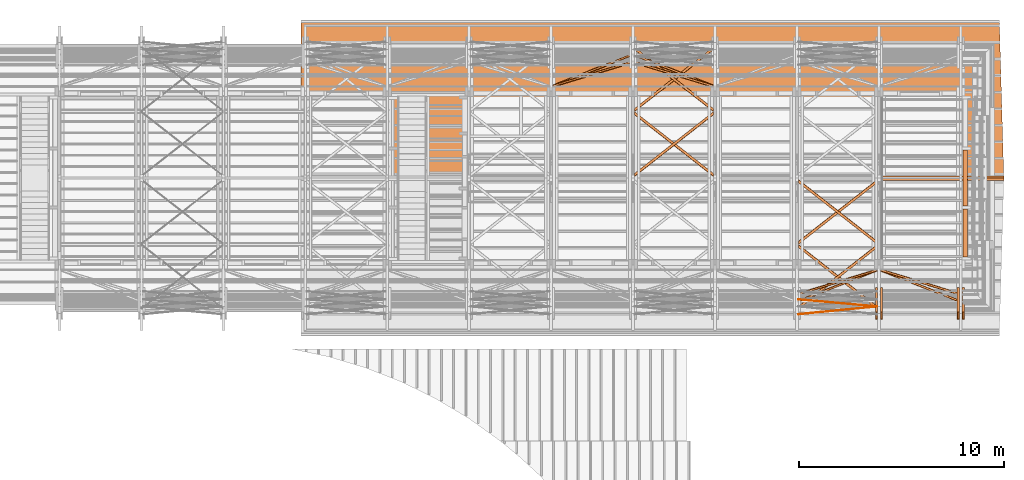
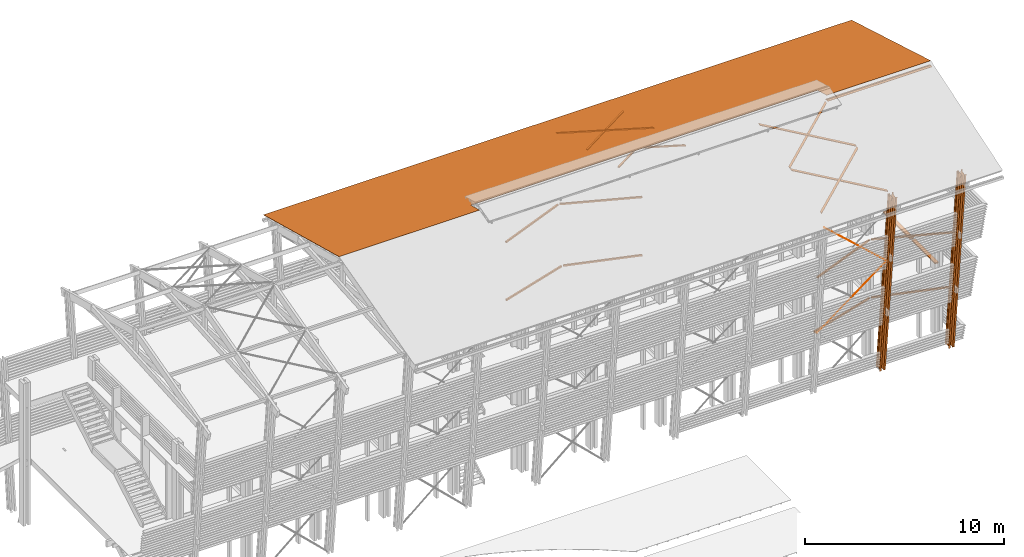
# One storey, part 45 of 48: 27 proxies, 1 element without a shape of its own.
"""IFC2X3 building model written with IfcOpenShell, lengths in metres."""

import ifcopenshell
import ifcopenshell.guid

model = None  # the IFC model being written
_history = None  # IfcOwnerHistory: only IFC2X3 demands one
_inside = {}  # id of a spatial element -> (the spatial element, [elements in it])
_under = {}  # id of a project, library or spatial element -> (it, [spatial elements below it])
_declared = {}  # id of a project -> (the project, [libraries it declares])
_typed = {}  # id of a type object -> (the type object, [elements of that type])
_made_of = {}  # id of a material, layer set ... -> (it, [elements and type objects made of it])


def new_model(schema):
    """Start an empty IFC model of exactly this schema.

    Asked for "IFC4X3", IfcOpenShell would pick the latest addendum, in which some entities
    have other attributes; the version numbers below select the first issue.
    IFC2X3 requires an IfcOwnerHistory on every rooted entity: one is made here for all.
    """
    global model, _history
    if schema == "IFC4X3":
        model = ifcopenshell.file(schema_version=(4, 3, 0, 0))
    else:
        model = ifcopenshell.file(schema=schema)
    _inside.clear()
    _under.clear()
    _declared.clear()
    _typed.clear()
    _made_of.clear()
    _history = None
    if model.schema == "IFC2X3":
        org = make("IfcOrganization", Name="unknown")
        user = make(
            "IfcPersonAndOrganization",
            ThePerson=make("IfcPerson", FamilyName="unknown"),
            TheOrganization=org,
        )
        app = make(
            "IfcApplication",
            ApplicationDeveloper=org,
            Version="unknown",
            ApplicationFullName="unknown",
            ApplicationIdentifier="unknown",
        )
        _history = make(
            "IfcOwnerHistory",
            OwningUser=user,
            OwningApplication=app,
            ChangeAction="ADDED",
            CreationDate=0,
        )
    return model


def make(cls, **values):
    """One entity of the class cls with the attributes given. An attribute that is None is left unset."""
    return model.create_entity(
        cls, **{name: value for name, value in values.items() if value is not None}
    )


def rooted(cls, **values):
    """An entity with a GlobalId (a new one), such as an element, a storey or a relation."""
    return make(cls, GlobalId=ifcopenshell.guid.new(), OwnerHistory=_history, **values)


def si_unit(unit_type, name, prefix=None):
    """IfcSIUnit, for example si_unit("LENGTHUNIT", "METRE", prefix="MILLI")."""
    return make("IfcSIUnit", UnitType=unit_type, Prefix=prefix, Name=name)


def assignment(units):
    """IfcUnitAssignment: the units of a project."""
    return None if units is None else make("IfcUnitAssignment", Units=units)


def point(xyz):
    """IfcCartesianPoint."""
    return None if xyz is None else make("IfcCartesianPoint", Coordinates=xyz)


def direction(xyz):
    """IfcDirection."""
    return None if xyz is None else make("IfcDirection", DirectionRatios=xyz)


def frame(location, z_axis=None, x_axis=None):
    """IfcAxis2Placement3D, a coordinate frame: its origin and axes. An axis left out is left unset."""
    return make(
        "IfcAxis2Placement3D",
        Location=point(location),
        Axis=direction(z_axis),
        RefDirection=direction(x_axis),
    )


def origin_with_axes():
    """The frame at (0, 0, 0) with the z axis (0, 0, 1) and the x axis (1, 0, 0) written out."""
    return frame((0.0, 0.0, 0.0), z_axis=(0.0, 0.0, 1.0), x_axis=(1.0, 0.0, 0.0))


def place(relative_to, where):
    """IfcLocalPlacement: puts the frame where relative to a parent placement (None: the world)."""
    return make(
        "IfcLocalPlacement", PlacementRelTo=relative_to, RelativePlacement=where
    )


def context(
    kind, dimensions, precision=None, world=None, true_north=None, identifier=None
):
    """IfcGeometricRepresentationContext, for example the 3D "Model" context."""
    return make(
        "IfcGeometricRepresentationContext",
        ContextIdentifier=identifier,
        ContextType=kind,
        CoordinateSpaceDimension=dimensions,
        Precision=precision,
        WorldCoordinateSystem=world,
        TrueNorth=true_north,
    )


def subcontext(parent, identifier, kind, view, scale=None):
    """IfcGeometricRepresentationSubContext, for example "Body" below "Model"."""
    return make(
        "IfcGeometricRepresentationSubContext",
        ContextIdentifier=identifier,
        ContextType=kind,
        ParentContext=parent,
        TargetScale=scale,
        TargetView=view,
    )


def project(units=None, contexts=None):
    """IfcProject with its units and contexts."""
    return rooted(
        "IfcProject",
        Name="project",
        RepresentationContexts=contexts,
        UnitsInContext=assignment(units),
    )


def spatial(cls, under=None, at=None, **own):
    """A site, building, storey or space (cls), placed at a placement, below another one or the project."""
    s = rooted(cls, ObjectPlacement=at, **own)
    if under is not None:
        _under.setdefault(under.id(), (under, []))[1].append(s)
    return s


def faces_of(points, faces, orient=None, outer=None):
    """IfcFace entities. A face is a list of loops; a loop is a list of indices into points, from 0.

    orient and outer hold one flag for each loop. By default every Orientation is true, the
    first loop of a face is its IfcFaceOuterBound and the others are IfcFaceBound.
    """
    made = []
    for i, loops in enumerate(faces):
        bounds = []
        for j, loop in enumerate(loops):
            is_outer = j == 0 if outer is None else outer[i][j]
            bounds.append(
                make(
                    "IfcFaceOuterBound" if is_outer else "IfcFaceBound",
                    Bound=make("IfcPolyLoop", Polygon=[points[k] for k in loop]),
                    Orientation=True if orient is None else orient[i][j],
                )
            )
        made.append(make("IfcFace", Bounds=bounds))
    return made


def faceted_brep(points, faces, orient=None, outer=None, voids=None):
    """IfcFacetedBrep: a solid bounded by flat faces; with voids (closed shells), ...WithVoids."""
    shared = [point(p) for p in points]
    hull = make("IfcClosedShell", CfsFaces=faces_of(shared, faces, orient, outer))
    if voids is None:
        return make("IfcFacetedBrep", Outer=hull)
    return make(
        "IfcFacetedBrepWithVoids",
        Outer=hull,
        Voids=[
            make(cls, CfsFaces=faces_of(shared, fs, o, b)) for cls, fs, o, b in voids
        ],
    )


def shape(context_of_items, identifier, shape_type, items):
    """IfcShapeRepresentation: the items that make up one representation, for example the "Body"."""
    return make(
        "IfcShapeRepresentation",
        ContextOfItems=context_of_items,
        RepresentationIdentifier=identifier,
        RepresentationType=shape_type,
        Items=items,
    )


def material(Name=None, Category=None):
    """IfcMaterial."""
    return make("IfcMaterial", Name=Name, Category=Category)


def made_of(thing, what):
    """Note that an element or type object is made of a material, layer set ...; save() writes the relation."""
    if what is not None:
        _made_of.setdefault(what.id(), (what, []))[1].append(thing)
    return thing


def element(
    cls,
    number,
    at=None,
    inside=None,
    cuts=None,
    type_object=None,
    material=None,
    context=None,
    identifier="Body",
    shape_type=None,
    held_by="IfcProductDefinitionShape",
    body=None,
    shapes=None,
    **own,
):
    """One element of the class cls, such as IfcWall. Its Tag is "e" and its number.

    at: its placement. inside: the storey or other place that contains it. cuts: it is an
    opening in that element (IfcRelVoidsElement). A single representation is given by context,
    identifier, shape_type and body (its items); several are given by shapes. held_by: the class
    of the entity that holds the representations. save() writes the other relations.
    """
    e = rooted(cls, Tag="e%d" % number, ObjectPlacement=at, **own)
    if body is not None:
        shapes = [shape(context, identifier, shape_type, body)]
    if shapes is not None:
        e.Representation = make(held_by, Representations=shapes)
    if inside is not None:
        _inside.setdefault(inside.id(), (inside, []))[1].append(e)
    if cuts is not None:
        rooted(
            "IfcRelVoidsElement", RelatingBuildingElement=cuts, RelatedOpeningElement=e
        )
    if type_object is not None:
        _typed.setdefault(type_object.id(), (type_object, []))[1].append(e)
    return made_of(e, material)


def aggregate(whole, parts):
    """IfcRelAggregates: a whole, such as a stair, and the parts it consists of."""
    return rooted("IfcRelAggregates", RelatingObject=whole, RelatedObjects=parts)


def save(model, path):
    """Write the relations noted so far, then the file.

    IfcRelAggregates (storeys below a building ...), IfcRelContainedInSpatialStructure (elements
    in a storey), IfcRelDefinesByType, IfcRelAssociatesMaterial and IfcRelDeclares: one each for
    every whole, place, type object, material and project.
    """
    for whole, parts in _under.values():
        aggregate(whole, parts)
    for where, things in _inside.values():
        rooted(
            "IfcRelContainedInSpatialStructure",
            RelatedElements=things,
            RelatingStructure=where,
        )
    for kind, things in _typed.values():
        rooted("IfcRelDefinesByType", RelatedObjects=things, RelatingType=kind)
    for what, things in _made_of.values():
        rooted("IfcRelAssociatesMaterial", RelatedObjects=things, RelatingMaterial=what)
    for by, libraries in _declared.values():
        rooted("IfcRelDeclares", RelatingContext=by, RelatedDefinitions=libraries)
    model.write(path)


model = new_model("IFC2X3")

# Units and contexts
model_context = context("Model", 3, precision=1e-06, world=origin_with_axes(), true_north=direction((0.0, 1.0, 0.0)))
body_context = subcontext(model_context, "Body", "Model", "MODEL_VIEW")
ifc_project = project(units=[si_unit("LENGTHUNIT", "METRE"), si_unit("AREAUNIT", "SQUARE_METRE"), si_unit("VOLUMEUNIT", "CUBIC_METRE"), si_unit("PLANEANGLEUNIT", "RADIAN")], contexts=[model_context])

# Site, building, storey
site_placement = place(None, origin_with_axes())
site = spatial("IfcSite", under=ifc_project, at=site_placement, CompositionType="ELEMENT")
building_placement = place(site_placement, origin_with_axes())
building = spatial("IfcBuilding", under=site, at=building_placement, Name="Building 1", CompositionType="ELEMENT")
storey_placement = place(building_placement, origin_with_axes())
storey = spatial("IfcBuildingStorey", under=building, at=storey_placement, Name="Storey 1", CompositionType="ELEMENT", Elevation=0.0)

# Proxies
ifc_material_1 = material(Name="Acier")
proxy_1_placement = place(storey_placement, frame((61.5737437, -195.1364145, 4.089), z_axis=(-0.6523288, -0.0792259, 0.753784), x_axis=(0.7579361, -0.0681869, 0.6487553)))
element("IfcBuildingElementProxy", 1, at=proxy_1_placement, inside=storey, material=ifc_material_1, Name="CVLP", context=body_context, shape_type="Brep", body=[
    faceted_brep([(5.0558353, 0.0093969, -0.0034202), (0.0, 0.01, 0.0), (5.0558353, 0.01, 0.0), (0.0, 0.0093969, 0.0034202), (5.0558353, 0.0093969, 0.0034202), (0.0, 0.0076604, 0.0064279), (5.0558353, 0.0076604, 0.0064279), (0.0, 0.005, 0.0086603), (5.0558353, 0.005, 0.0086603), (0.0, 0.0017365, 0.0098481), (5.0558353, 0.0017365, 0.0098481), (0.0, -0.0017365, 0.0098481), (5.0558353, -0.0017365, 0.0098481), (0.0, -0.005, 0.0086603), (5.0558353, -0.005, 0.0086603), (0.0, -0.0076604, 0.0064279), (5.0558353, -0.0076604, 0.0064279), (0.0, -0.0093969, 0.0034202), (5.0558353, -0.0093969, 0.0034202), (0.0, -0.01, 0.0), (5.0558353, -0.01, 0.0), (0.0, -0.0093969, -0.0034202), (5.0558353, -0.0093969, -0.0034202), (0.0, -0.0076604, -0.0064279), (5.0558353, -0.0076604, -0.0064279), (0.0, -0.005, -0.0086603), (5.0558353, -0.005, -0.0086603), (0.0, -0.0017365, -0.0098481), (5.0558353, -0.0017365, -0.0098481), (0.0, 0.0017365, -0.0098481), (5.0558353, 0.0017365, -0.0098481), (0.0, 0.005, -0.0086603), (5.0558353, 0.005, -0.0086603), (0.0, 0.0076604, -0.0064279), (5.0558353, 0.0076604, -0.0064279), (0.0, 0.0093969, -0.0034202)], [[[0, 1, 2]], [[2, 1, 3]], [[2, 3, 4]], [[4, 3, 5]], [[4, 5, 6]], [[6, 5, 7]], [[6, 7, 8]], [[8, 7, 9]], [[8, 9, 10]], [[10, 9, 11]], [[10, 11, 12]], [[12, 11, 13]], [[12, 13, 14]], [[14, 13, 15]], [[14, 15, 16]], [[16, 15, 17]], [[16, 17, 18]], [[18, 17, 19]], [[18, 19, 20]], [[20, 19, 21]], [[20, 21, 22]], [[22, 21, 23]], [[22, 23, 24]], [[24, 23, 25]], [[24, 25, 26]], [[26, 25, 27]], [[26, 27, 28]], [[28, 27, 29]], [[28, 29, 30]], [[30, 29, 31]], [[30, 31, 32]], [[32, 31, 33]], [[32, 33, 34]], [[34, 33, 35]], [[34, 35, 0]], [[0, 35, 1]], [[10, 12, 8]], [[8, 12, 14]], [[8, 14, 6]], [[6, 14, 16]], [[6, 16, 4]], [[4, 16, 18]], [[4, 18, 2]], [[2, 18, 20]], [[2, 20, 0]], [[0, 20, 22]], [[0, 22, 34]], [[34, 22, 24]], [[34, 24, 32]], [[32, 24, 26]], [[32, 26, 30]], [[30, 26, 28]], [[29, 27, 31]], [[31, 27, 25]], [[31, 25, 33]], [[33, 25, 23]], [[33, 23, 35]], [[35, 23, 21]], [[35, 21, 1]], [[1, 21, 19]], [[1, 19, 3]], [[3, 19, 17]], [[3, 17, 5]], [[5, 17, 15]], [[5, 15, 7]], [[7, 15, 13]], [[7, 13, 9]], [[9, 13, 11]]]),
])
proxy_2_placement = place(storey_placement, frame((65.4057437, -195.4811564, 7.369), z_axis=(0.6859491, -0.0760601, 0.7236634), x_axis=(-0.7276496, -0.0717012, 0.6821914)))
element("IfcBuildingElementProxy", 2, at=proxy_2_placement, inside=storey, material=ifc_material_1, Name="CVLP", context=body_context, shape_type="Brep", body=[
    faceted_brep([(5.2662712, 0.0093969, -0.0034202), (0.0, 0.01, 0.0), (5.2662712, 0.01, 0.0), (0.0, 0.0093969, 0.0034202), (5.2662712, 0.0093969, 0.0034202), (0.0, 0.0076604, 0.0064279), (5.2662712, 0.0076604, 0.0064279), (0.0, 0.005, 0.0086603), (5.2662712, 0.005, 0.0086603), (0.0, 0.0017365, 0.0098481), (5.2662712, 0.0017365, 0.0098481), (0.0, -0.0017365, 0.0098481), (5.2662712, -0.0017365, 0.0098481), (0.0, -0.005, 0.0086603), (5.2662712, -0.005, 0.0086603), (0.0, -0.0076604, 0.0064279), (5.2662712, -0.0076604, 0.0064279), (0.0, -0.0093969, 0.0034202), (5.2662712, -0.0093969, 0.0034202), (0.0, -0.01, 0.0), (5.2662712, -0.01, 0.0), (0.0, -0.0093969, -0.0034202), (5.2662712, -0.0093969, -0.0034202), (0.0, -0.0076604, -0.0064279), (5.2662712, -0.0076604, -0.0064279), (0.0, -0.005, -0.0086603), (5.2662712, -0.005, -0.0086603), (0.0, -0.0017365, -0.0098481), (5.2662712, -0.0017365, -0.0098481), (0.0, 0.0017365, -0.0098481), (5.2662712, 0.0017365, -0.0098481), (0.0, 0.005, -0.0086603), (5.2662712, 0.005, -0.0086603), (0.0, 0.0076604, -0.0064279), (5.2662712, 0.0076604, -0.0064279), (0.0, 0.0093969, -0.0034202)], [[[0, 1, 2]], [[2, 1, 3]], [[2, 3, 4]], [[4, 3, 5]], [[4, 5, 6]], [[6, 5, 7]], [[6, 7, 8]], [[8, 7, 9]], [[8, 9, 10]], [[10, 9, 11]], [[10, 11, 12]], [[12, 11, 13]], [[12, 13, 14]], [[14, 13, 15]], [[14, 15, 16]], [[16, 15, 17]], [[16, 17, 18]], [[18, 17, 19]], [[18, 19, 20]], [[20, 19, 21]], [[20, 21, 22]], [[22, 21, 23]], [[22, 23, 24]], [[24, 23, 25]], [[24, 25, 26]], [[26, 25, 27]], [[26, 27, 28]], [[28, 27, 29]], [[28, 29, 30]], [[30, 29, 31]], [[30, 31, 32]], [[32, 31, 33]], [[32, 33, 34]], [[34, 33, 35]], [[34, 35, 0]], [[0, 35, 1]], [[10, 12, 8]], [[8, 12, 14]], [[8, 14, 6]], [[6, 14, 16]], [[6, 16, 4]], [[4, 16, 18]], [[4, 18, 2]], [[2, 18, 20]], [[2, 20, 0]], [[0, 20, 22]], [[0, 22, 34]], [[34, 22, 24]], [[34, 24, 32]], [[32, 24, 26]], [[32, 26, 30]], [[30, 26, 28]], [[29, 27, 31]], [[31, 27, 25]], [[31, 25, 33]], [[33, 25, 23]], [[33, 23, 35]], [[35, 23, 21]], [[35, 21, 1]], [[1, 21, 19]], [[1, 19, 3]], [[3, 19, 17]], [[3, 17, 5]], [[5, 17, 15]], [[5, 15, 7]], [[7, 15, 13]], [[7, 13, 9]], [[9, 13, 11]]]),
])
ifc_material_2 = material(Name="GL28h")
proxy_3_placement = place(storey_placement, frame((57.4417411, -184.7306656, 7.544), z_axis=(-0.3666108, -0.9303744, 0.0), x_axis=(-0.9303744, 0.3666108, 0.0)))
element("IfcBuildingElementProxy", 3, at=proxy_3_placement, inside=storey, material=ifc_material_2, Name="CVLP", context=body_context, shape_type="Brep", body=[
    faceted_brep([(4.196153, -0.045, -0.045), (4.196153, -0.045, 0.045), (0.0, -0.045, 0.045), (0.0, -0.045, -0.045), (4.196153, 0.045, 0.045), (0.0, 0.045, 0.045), (4.196153, 0.045, -0.045), (0.0, 0.045, -0.045)], [[[0, 1, 2, 3]], [[1, 4, 5, 2]], [[4, 6, 7, 5]], [[6, 0, 3, 7]], [[1, 0, 6, 4]], [[7, 3, 2, 5]]]),
])
proxy_4_placement = place(storey_placement, frame((69.3687437, -195.9301471, 11.6408612), z_axis=(0.0, 0.9945219, 0.1045285), x_axis=(0.0, 0.1045285, -0.9945219)))
element("IfcBuildingElementProxy", 4, at=proxy_4_placement, inside=storey, material=ifc_material_1, Name="Poteau", context=body_context, shape_type="Brep", body=[
    faceted_brep([(0.0588262, 0.0506328, -0.181414), (0.0592057, 0.051, -0.18381), (0.0579402, 0.0433995, -0.17582), (0.0601861, 0.051, -0.19), (0.0574199, -0.022299, -0.172535), (0.0601861, -0.051, -0.19), (0.0572658, -0.0270483, -0.1715622), (0.0568935, -0.0312883, -0.1692116), (0.0038489, -0.0346296, 0.165699), (0.0045382, -0.0367655, 0.161347), (0.0, -0.051, 0.19), (0.0052972, -0.0375, 0.156555), (0.0548889, -0.0375, -0.156555), (0.0556479, -0.0367655, -0.161347), (0.0009804, 0.051, 0.18381), (0.0022459, 0.0433995, 0.17582), (0.0, 0.051, 0.19), (0.0027662, -0.022299, 0.172535), (0.0029203, -0.0270483, 0.1715622), (0.0032926, -0.0312883, 0.1692116), (0.0013599, 0.0506328, 0.181414), (0.0017045, 0.0495648, 0.179238), (0.0019827, 0.0478941, 0.1774817), (0.0021689, 0.0457742, 0.1763064), (0.0563372, -0.0346296, -0.165699), (0.0580172, 0.0457742, -0.1763064), (0.0582034, 0.0478941, -0.1774817), (0.0584816, 0.0495648, -0.179238), (11.420672, 0.0433995, 0.17582), (11.420672, 0.0457742, 0.1763064), (11.420672, 0.0478941, 0.1774817), (11.420672, 0.0495648, 0.179238), (11.420672, 0.0506328, 0.181414), (11.420672, 0.051, 0.18381), (11.420672, 0.051, 0.19), (11.420672, -0.051, 0.19), (11.420672, -0.051, -0.19), (11.420672, 0.051, -0.19), (11.420672, 0.051, -0.18381), (11.420672, 0.0506328, -0.181414), (11.420672, 0.0495648, -0.179238), (11.420672, 0.0478941, -0.1774817), (11.420672, 0.0457742, -0.1763064), (11.420672, 0.0433995, -0.17582), (11.420672, -0.022299, -0.172535), (11.420672, -0.0270483, -0.1715622), (11.420672, -0.0312883, -0.1692116), (11.420672, -0.0346296, -0.165699), (11.420672, -0.0367655, -0.161347), (11.420672, -0.0375, -0.156555), (11.420672, -0.0375, 0.156555), (11.420672, -0.0367655, 0.161347), (11.420672, -0.0346296, 0.165699), (11.420672, -0.0312883, 0.1692116), (11.420672, -0.0270483, 0.1715622), (11.420672, -0.022299, 0.172535)], [[[0, 1, 2]], [[2, 1, 3]], [[2, 3, 4]], [[4, 3, 5]], [[4, 5, 6]], [[6, 5, 7]], [[8, 9, 10]], [[10, 9, 11]], [[10, 11, 5]], [[5, 11, 12]], [[5, 12, 13]], [[14, 15, 16]], [[16, 15, 17]], [[16, 17, 10]], [[10, 17, 18]], [[10, 18, 19]], [[14, 20, 15]], [[15, 20, 21]], [[15, 21, 22]], [[22, 23, 15]], [[19, 8, 10]], [[13, 24, 5]], [[5, 24, 7]], [[25, 26, 2]], [[2, 26, 27]], [[2, 27, 0]], [[15, 23, 28]], [[28, 23, 29]], [[23, 22, 29]], [[29, 22, 30]], [[22, 21, 30]], [[30, 21, 31]], [[21, 20, 31]], [[31, 20, 32]], [[20, 14, 32]], [[32, 14, 33]], [[16, 34, 14]], [[14, 34, 33]], [[10, 5, 35]], [[35, 5, 36]], [[5, 3, 36]], [[36, 3, 37]], [[1, 38, 3]], [[3, 38, 37]], [[1, 0, 38]], [[38, 0, 39]], [[0, 27, 39]], [[39, 27, 40]], [[27, 26, 40]], [[40, 26, 41]], [[26, 25, 41]], [[41, 25, 42]], [[25, 2, 42]], [[42, 2, 43]], [[4, 44, 2]], [[2, 44, 43]], [[4, 6, 44]], [[44, 6, 45]], [[6, 7, 45]], [[45, 7, 46]], [[7, 24, 46]], [[46, 24, 47]], [[24, 13, 47]], [[47, 13, 48]], [[13, 12, 48]], [[48, 12, 49]], [[11, 50, 12]], [[12, 50, 49]], [[11, 9, 50]], [[50, 9, 51]], [[9, 8, 51]], [[51, 8, 52]], [[8, 19, 52]], [[52, 19, 53]], [[19, 18, 53]], [[53, 18, 54]], [[18, 17, 54]], [[54, 17, 55]], [[15, 28, 17]], [[17, 28, 55]], [[35, 34, 10]], [[10, 34, 16]], [[48, 49, 36]], [[36, 49, 50]], [[36, 50, 35]], [[35, 50, 51]], [[35, 51, 52]], [[41, 42, 38]], [[38, 42, 43]], [[38, 43, 37]], [[37, 43, 44]], [[37, 44, 36]], [[36, 44, 45]], [[36, 45, 46]], [[39, 40, 38]], [[38, 40, 41]], [[46, 47, 36]], [[36, 47, 48]], [[52, 53, 35]], [[35, 53, 54]], [[35, 54, 55]], [[35, 55, 34]], [[34, 55, 28]], [[34, 28, 33]], [[33, 28, 32]], [[29, 30, 28]], [[28, 30, 31]], [[28, 31, 32]]]),
])
proxy_5_placement = place(storey_placement, frame((69.6107437, -195.9301471, 11.6408612), z_axis=(0.0, 0.9945219, 0.1045285), x_axis=(0.0, 0.1045285, -0.9945219)))
element("IfcBuildingElementProxy", 5, at=proxy_5_placement, inside=storey, material=ifc_material_1, Name="Poteau", context=body_context, shape_type="Brep", body=[
    faceted_brep([(0.0556479, 0.0367655, -0.161347), (0.0548889, 0.0375, -0.156555), (0.0601861, 0.051, -0.19), (0.0052972, 0.0375, 0.156555), (0.0, 0.051, 0.19), (0.0045382, 0.0367655, 0.161347), (0.0038489, 0.0346296, 0.165699), (0.0592057, -0.051, -0.18381), (0.0579402, -0.0433995, -0.17582), (0.0601861, -0.051, -0.19), (0.0574199, 0.022299, -0.172535), (0.0572658, 0.0270483, -0.1715622), (0.0568935, 0.0312883, -0.1692116), (0.0588262, -0.0506328, -0.181414), (0.0584816, -0.0495648, -0.179238), (0.0582034, -0.0478941, -0.1774817), (0.0580172, -0.0457742, -0.1763064), (0.0563372, 0.0346296, -0.165699), (0.0032926, 0.0312883, 0.1692116), (0.0029203, 0.0270483, 0.1715622), (0.0027662, 0.022299, 0.172535), (0.0, -0.051, 0.19), (0.0022459, -0.0433995, 0.17582), (0.0009804, -0.051, 0.18381), (0.0013599, -0.0506328, 0.181414), (0.0021689, -0.0457742, 0.1763064), (0.0019827, -0.0478941, 0.1774817), (0.0017045, -0.0495648, 0.179238), (11.420672, 0.0375, -0.156555), (11.420672, 0.0367655, -0.161347), (11.420672, 0.0346296, -0.165699), (11.420672, 0.0312883, -0.1692116), (11.420672, 0.0270483, -0.1715622), (11.420672, 0.022299, -0.172535), (11.420672, -0.0433995, -0.17582), (11.420672, -0.0457742, -0.1763064), (11.420672, -0.0478941, -0.1774817), (11.420672, -0.0495648, -0.179238), (11.420672, -0.0506328, -0.181414), (11.420672, -0.051, -0.18381), (11.420672, -0.051, -0.19), (11.420672, 0.051, -0.19), (11.420672, 0.051, 0.19), (11.420672, -0.051, 0.19), (11.420672, -0.051, 0.18381), (11.420672, -0.0506328, 0.181414), (11.420672, -0.0495648, 0.179238), (11.420672, -0.0478941, 0.1774817), (11.420672, -0.0457742, 0.1763064), (11.420672, -0.0433995, 0.17582), (11.420672, 0.022299, 0.172535), (11.420672, 0.0270483, 0.1715622), (11.420672, 0.0312883, 0.1692116), (11.420672, 0.0346296, 0.165699), (11.420672, 0.0367655, 0.161347), (11.420672, 0.0375, 0.156555)], [[[0, 1, 2]], [[2, 1, 3]], [[2, 3, 4]], [[4, 3, 5]], [[4, 5, 6]], [[7, 8, 9]], [[9, 8, 10]], [[9, 10, 2]], [[2, 10, 11]], [[2, 11, 12]], [[7, 13, 8]], [[8, 13, 14]], [[8, 14, 15]], [[15, 16, 8]], [[12, 17, 2]], [[2, 17, 0]], [[6, 18, 4]], [[4, 18, 19]], [[4, 19, 20]], [[4, 20, 21]], [[21, 20, 22]], [[21, 22, 23]], [[23, 22, 24]], [[25, 26, 22]], [[22, 26, 27]], [[22, 27, 24]], [[1, 0, 28]], [[28, 0, 29]], [[0, 17, 29]], [[29, 17, 30]], [[17, 12, 30]], [[30, 12, 31]], [[12, 11, 31]], [[31, 11, 32]], [[11, 10, 32]], [[32, 10, 33]], [[10, 8, 33]], [[33, 8, 34]], [[8, 16, 34]], [[34, 16, 35]], [[16, 15, 35]], [[35, 15, 36]], [[15, 14, 36]], [[36, 14, 37]], [[14, 13, 37]], [[37, 13, 38]], [[13, 7, 38]], [[38, 7, 39]], [[7, 9, 39]], [[39, 9, 40]], [[9, 2, 40]], [[40, 2, 41]], [[4, 42, 2]], [[2, 42, 41]], [[43, 42, 21]], [[21, 42, 4]], [[21, 23, 43]], [[43, 23, 44]], [[23, 24, 44]], [[44, 24, 45]], [[24, 27, 45]], [[45, 27, 46]], [[27, 26, 46]], [[46, 26, 47]], [[26, 25, 47]], [[47, 25, 48]], [[25, 22, 48]], [[48, 22, 49]], [[22, 20, 49]], [[49, 20, 50]], [[20, 19, 50]], [[50, 19, 51]], [[19, 18, 51]], [[51, 18, 52]], [[18, 6, 52]], [[52, 6, 53]], [[6, 5, 53]], [[53, 5, 54]], [[5, 3, 54]], [[54, 3, 55]], [[3, 1, 55]], [[55, 1, 28]], [[53, 54, 42]], [[42, 54, 55]], [[42, 55, 41]], [[41, 55, 28]], [[41, 28, 29]], [[44, 49, 43]], [[43, 49, 50]], [[43, 50, 42]], [[42, 50, 51]], [[42, 51, 52]], [[44, 45, 49]], [[49, 45, 46]], [[49, 46, 47]], [[47, 48, 49]], [[52, 53, 42]], [[29, 30, 41]], [[41, 30, 31]], [[41, 31, 32]], [[32, 33, 41]], [[41, 33, 40]], [[33, 34, 40]], [[40, 34, 39]], [[34, 35, 39]], [[39, 35, 36]], [[39, 36, 37]], [[37, 38, 39]]]),
])
proxy_6_placement = place(storey_placement, frame((65.3687437, -195.9301471, 11.6408612), z_axis=(0.0, 0.9945219, 0.1045285), x_axis=(0.0, 0.1045285, -0.9945219)))
element("IfcBuildingElementProxy", 6, at=proxy_6_placement, inside=storey, material=ifc_material_1, Name="Poteau", context=body_context, shape_type="Brep", body=[
    faceted_brep([(0.0588262, 0.0506328, -0.181414), (0.0592057, 0.051, -0.18381), (0.0579402, 0.0433995, -0.17582), (0.0601861, 0.051, -0.19), (0.0574199, -0.022299, -0.172535), (0.0601861, -0.051, -0.19), (0.0572658, -0.0270483, -0.1715622), (0.0568935, -0.0312883, -0.1692116), (0.0038489, -0.0346296, 0.165699), (0.0045382, -0.0367655, 0.161347), (0.0, -0.051, 0.19), (0.0052972, -0.0375, 0.156555), (0.0548889, -0.0375, -0.156555), (0.0556479, -0.0367655, -0.161347), (0.0009804, 0.051, 0.18381), (0.0022459, 0.0433995, 0.17582), (0.0, 0.051, 0.19), (0.0027662, -0.022299, 0.172535), (0.0029203, -0.0270483, 0.1715622), (0.0032926, -0.0312883, 0.1692116), (0.0013599, 0.0506328, 0.181414), (0.0017045, 0.0495648, 0.179238), (0.0019827, 0.0478941, 0.1774817), (0.0021689, 0.0457742, 0.1763064), (0.0563372, -0.0346296, -0.165699), (0.0580172, 0.0457742, -0.1763064), (0.0582034, 0.0478941, -0.1774817), (0.0584816, 0.0495648, -0.179238), (11.420672, 0.0433995, 0.17582), (11.420672, 0.0457742, 0.1763064), (11.420672, 0.0478941, 0.1774817), (11.420672, 0.0495648, 0.179238), (11.420672, 0.0506328, 0.181414), (11.420672, 0.051, 0.18381), (11.420672, 0.051, 0.19), (11.420672, -0.051, 0.19), (11.420672, -0.051, -0.19), (11.420672, 0.051, -0.19), (11.420672, 0.051, -0.18381), (11.420672, 0.0506328, -0.181414), (11.420672, 0.0495648, -0.179238), (11.420672, 0.0478941, -0.1774817), (11.420672, 0.0457742, -0.1763064), (11.420672, 0.0433995, -0.17582), (11.420672, -0.022299, -0.172535), (11.420672, -0.0270483, -0.1715622), (11.420672, -0.0312883, -0.1692116), (11.420672, -0.0346296, -0.165699), (11.420672, -0.0367655, -0.161347), (11.420672, -0.0375, -0.156555), (11.420672, -0.0375, 0.156555), (11.420672, -0.0367655, 0.161347), (11.420672, -0.0346296, 0.165699), (11.420672, -0.0312883, 0.1692116), (11.420672, -0.0270483, 0.1715622), (11.420672, -0.022299, 0.172535)], [[[0, 1, 2]], [[2, 1, 3]], [[2, 3, 4]], [[4, 3, 5]], [[4, 5, 6]], [[6, 5, 7]], [[8, 9, 10]], [[10, 9, 11]], [[10, 11, 5]], [[5, 11, 12]], [[5, 12, 13]], [[14, 15, 16]], [[16, 15, 17]], [[16, 17, 10]], [[10, 17, 18]], [[10, 18, 19]], [[14, 20, 15]], [[15, 20, 21]], [[15, 21, 22]], [[22, 23, 15]], [[19, 8, 10]], [[13, 24, 5]], [[5, 24, 7]], [[25, 26, 2]], [[2, 26, 27]], [[2, 27, 0]], [[15, 23, 28]], [[28, 23, 29]], [[23, 22, 29]], [[29, 22, 30]], [[22, 21, 30]], [[30, 21, 31]], [[21, 20, 31]], [[31, 20, 32]], [[20, 14, 32]], [[32, 14, 33]], [[16, 34, 14]], [[14, 34, 33]], [[10, 5, 35]], [[35, 5, 36]], [[5, 3, 36]], [[36, 3, 37]], [[1, 38, 3]], [[3, 38, 37]], [[1, 0, 38]], [[38, 0, 39]], [[0, 27, 39]], [[39, 27, 40]], [[27, 26, 40]], [[40, 26, 41]], [[26, 25, 41]], [[41, 25, 42]], [[25, 2, 42]], [[42, 2, 43]], [[4, 44, 2]], [[2, 44, 43]], [[4, 6, 44]], [[44, 6, 45]], [[6, 7, 45]], [[45, 7, 46]], [[7, 24, 46]], [[46, 24, 47]], [[24, 13, 47]], [[47, 13, 48]], [[13, 12, 48]], [[48, 12, 49]], [[11, 50, 12]], [[12, 50, 49]], [[11, 9, 50]], [[50, 9, 51]], [[9, 8, 51]], [[51, 8, 52]], [[8, 19, 52]], [[52, 19, 53]], [[19, 18, 53]], [[53, 18, 54]], [[18, 17, 54]], [[54, 17, 55]], [[15, 28, 17]], [[17, 28, 55]], [[35, 34, 10]], [[10, 34, 16]], [[48, 49, 36]], [[36, 49, 50]], [[36, 50, 35]], [[35, 50, 51]], [[35, 51, 52]], [[41, 42, 38]], [[38, 42, 43]], [[38, 43, 37]], [[37, 43, 44]], [[37, 44, 36]], [[36, 44, 45]], [[36, 45, 46]], [[39, 40, 38]], [[38, 40, 41]], [[46, 47, 36]], [[36, 47, 48]], [[52, 53, 35]], [[35, 53, 54]], [[35, 54, 55]], [[35, 55, 34]], [[34, 55, 28]], [[34, 28, 33]], [[33, 28, 32]], [[29, 30, 28]], [[28, 30, 31]], [[28, 31, 32]]]),
])
proxy_7_placement = place(storey_placement, frame((65.6107437, -195.9301471, 11.6408612), z_axis=(0.0, 0.9945219, 0.1045285), x_axis=(0.0, 0.1045285, -0.9945219)))
element("IfcBuildingElementProxy", 7, at=proxy_7_placement, inside=storey, material=ifc_material_1, Name="Poteau", context=body_context, shape_type="Brep", body=[
    faceted_brep([(0.0556479, 0.0367655, -0.161347), (0.0548889, 0.0375, -0.156555), (0.0601861, 0.051, -0.19), (0.0052972, 0.0375, 0.156555), (0.0, 0.051, 0.19), (0.0045382, 0.0367655, 0.161347), (0.0038489, 0.0346296, 0.165699), (0.0592057, -0.051, -0.18381), (0.0579402, -0.0433995, -0.17582), (0.0601861, -0.051, -0.19), (0.0574199, 0.022299, -0.172535), (0.0572658, 0.0270483, -0.1715622), (0.0568935, 0.0312883, -0.1692116), (0.0588262, -0.0506328, -0.181414), (0.0584816, -0.0495648, -0.179238), (0.0582034, -0.0478941, -0.1774817), (0.0580172, -0.0457742, -0.1763064), (0.0563372, 0.0346296, -0.165699), (0.0032926, 0.0312883, 0.1692116), (0.0029203, 0.0270483, 0.1715622), (0.0027662, 0.022299, 0.172535), (0.0, -0.051, 0.19), (0.0022459, -0.0433995, 0.17582), (0.0009804, -0.051, 0.18381), (0.0013599, -0.0506328, 0.181414), (0.0021689, -0.0457742, 0.1763064), (0.0019827, -0.0478941, 0.1774817), (0.0017045, -0.0495648, 0.179238), (11.420672, 0.0375, -0.156555), (11.420672, 0.0367655, -0.161347), (11.420672, 0.0346296, -0.165699), (11.420672, 0.0312883, -0.1692116), (11.420672, 0.0270483, -0.1715622), (11.420672, 0.022299, -0.172535), (11.420672, -0.0433995, -0.17582), (11.420672, -0.0457742, -0.1763064), (11.420672, -0.0478941, -0.1774817), (11.420672, -0.0495648, -0.179238), (11.420672, -0.0506328, -0.181414), (11.420672, -0.051, -0.18381), (11.420672, -0.051, -0.19), (11.420672, 0.051, -0.19), (11.420672, 0.051, 0.19), (11.420672, -0.051, 0.19), (11.420672, -0.051, 0.18381), (11.420672, -0.0506328, 0.181414), (11.420672, -0.0495648, 0.179238), (11.420672, -0.0478941, 0.1774817), (11.420672, -0.0457742, 0.1763064), (11.420672, -0.0433995, 0.17582), (11.420672, 0.022299, 0.172535), (11.420672, 0.0270483, 0.1715622), (11.420672, 0.0312883, 0.1692116), (11.420672, 0.0346296, 0.165699), (11.420672, 0.0367655, 0.161347), (11.420672, 0.0375, 0.156555)], [[[0, 1, 2]], [[2, 1, 3]], [[2, 3, 4]], [[4, 3, 5]], [[4, 5, 6]], [[7, 8, 9]], [[9, 8, 10]], [[9, 10, 2]], [[2, 10, 11]], [[2, 11, 12]], [[7, 13, 8]], [[8, 13, 14]], [[8, 14, 15]], [[15, 16, 8]], [[12, 17, 2]], [[2, 17, 0]], [[6, 18, 4]], [[4, 18, 19]], [[4, 19, 20]], [[4, 20, 21]], [[21, 20, 22]], [[21, 22, 23]], [[23, 22, 24]], [[25, 26, 22]], [[22, 26, 27]], [[22, 27, 24]], [[1, 0, 28]], [[28, 0, 29]], [[0, 17, 29]], [[29, 17, 30]], [[17, 12, 30]], [[30, 12, 31]], [[12, 11, 31]], [[31, 11, 32]], [[11, 10, 32]], [[32, 10, 33]], [[10, 8, 33]], [[33, 8, 34]], [[8, 16, 34]], [[34, 16, 35]], [[16, 15, 35]], [[35, 15, 36]], [[15, 14, 36]], [[36, 14, 37]], [[14, 13, 37]], [[37, 13, 38]], [[13, 7, 38]], [[38, 7, 39]], [[7, 9, 39]], [[39, 9, 40]], [[9, 2, 40]], [[40, 2, 41]], [[4, 42, 2]], [[2, 42, 41]], [[43, 42, 21]], [[21, 42, 4]], [[21, 23, 43]], [[43, 23, 44]], [[23, 24, 44]], [[44, 24, 45]], [[24, 27, 45]], [[45, 27, 46]], [[27, 26, 46]], [[46, 26, 47]], [[26, 25, 47]], [[47, 25, 48]], [[25, 22, 48]], [[48, 22, 49]], [[22, 20, 49]], [[49, 20, 50]], [[20, 19, 50]], [[50, 19, 51]], [[19, 18, 51]], [[51, 18, 52]], [[18, 6, 52]], [[52, 6, 53]], [[6, 5, 53]], [[53, 5, 54]], [[5, 3, 54]], [[54, 3, 55]], [[3, 1, 55]], [[55, 1, 28]], [[53, 54, 42]], [[42, 54, 55]], [[42, 55, 41]], [[41, 55, 28]], [[41, 28, 29]], [[44, 49, 43]], [[43, 49, 50]], [[43, 50, 42]], [[42, 50, 51]], [[42, 51, 52]], [[44, 45, 49]], [[49, 45, 46]], [[49, 46, 47]], [[47, 48, 49]], [[52, 53, 42]], [[29, 30, 41]], [[41, 30, 31]], [[41, 31, 32]], [[32, 33, 41]], [[41, 33, 40]], [[33, 34, 40]], [[40, 34, 39]], [[34, 35, 39]], [[39, 35, 36]], [[39, 36, 37]], [[37, 38, 39]]]),
])
ifc_material_3 = material(Name="tôle")
proxy_8_placement = place(storey_placement, frame((71.5941587, -189.1514399, 13.3540738), z_axis=(0.0, 0.258819, 0.9659258), x_axis=(-1.0, 0.0, 0.0)))
element("IfcBuildingElementProxy", 8, at=proxy_8_placement, inside=storey, material=ifc_material_3, Name="Couverture", context=body_context, shape_type="Brep", body=[
    faceted_brep([(0.0, 0.0609051, 0.0085), (6.044415, 0.0609051, 0.0085), (6.044415, 0.05635, -0.0085), (0.0, 0.05635, -0.0085), (6.044415, -0.05635, 0.0085), (6.044415, -0.0609051, -0.0085), (0.0, -0.05635, 0.0085), (0.0, -0.0609051, -0.0085)], [[[0, 1, 2, 3]], [[1, 4, 5, 2]], [[4, 6, 7, 5]], [[6, 0, 3, 7]], [[1, 0, 6, 4]], [[7, 3, 2, 5]]]),
])

# Roof, proxy
roof_placement = place(storey_placement, frame((71.5941587, -185.4152697, 12.6314393), z_axis=(0.0, 0.258819, 0.9659258), x_axis=(-1.0, 0.0, 0.0)))
roof = element("IfcRoof", 9, at=roof_placement, inside=storey, Name="Roof - Couverture", ShapeType="NOTDEFINED")
proxy_9_placement = place(roof_placement, origin_with_axes())
proxy_9 = element("IfcBuildingElementProxy", 10, at=proxy_9_placement, material=ifc_material_3, Name="Couverture", context=body_context, shape_type="Brep", body=[
    faceted_brep([(0.2171631, -3.9288731, 0.0085), (0.2170372, -3.9288731, -0.0085), (34.3144146, -3.9288731, -0.0085), (34.3144146, -3.9288731, 0.0085), (0.0, 3.924318, -0.0085), (6.044415, 3.924318, -0.0085), (6.044415, 2.9925694, -0.0085), (26.164415, 2.9925694, -0.0085), (26.164415, 3.924318, -0.0085), (34.3144146, 3.924318, -0.0085), (0.0, 3.9288731, 0.0085), (26.164415, 3.9288731, 0.0085), (34.3144146, 3.9288731, 0.0085), (6.044415, 3.9288731, 0.0085), (6.044415, 2.9971245, 0.0085), (26.164415, 2.9971245, 0.0085)], [[[0, 1, 2, 3]], [[2, 1, 4, 5, 6, 7, 8, 9]], [[1, 0, 10, 4]], [[8, 11, 12, 9]], [[13, 5, 4, 10]], [[5, 13, 14, 6]], [[11, 8, 7, 15]], [[15, 7, 6, 14]], [[0, 3, 12, 11, 15, 14, 13, 10]], [[3, 2, 9, 12]]]),
])
aggregate(roof, [proxy_9])

# Proxies
proxy_10_placement = place(storey_placement, frame((65.5497437, -189.2646997, 13.3540738), z_axis=(0.0, -0.258819, 0.9659258), x_axis=(1.0, 0.0, 0.0)))
element("IfcBuildingElementProxy", 11, at=proxy_10_placement, inside=storey, material=ifc_material_3, Name="Couverture", context=body_context, shape_type="Brep", body=[
    faceted_brep([(6.044415, -0.05635, 0.0085), (0.0, -0.05635, 0.0085), (0.0, -0.0609051, -0.0085), (6.044415, -0.0609051, -0.0085), (0.0, 0.0609051, 0.0085), (0.0, 0.05635, -0.0085), (6.044415, 0.0609051, 0.0085), (6.044415, 0.05635, -0.0085)], [[[0, 1, 2, 3]], [[1, 4, 5, 2]], [[4, 6, 7, 5]], [[6, 0, 3, 7]], [[1, 0, 6, 4]], [[7, 3, 2, 5]]]),
])
proxy_11_placement = place(storey_placement, frame((69.7097437, -190.7180698, 4.25), z_axis=(-1.0, 0.0, 0.0), x_axis=(0.0, -1.0, 0.0)))
element("IfcBuildingElementProxy", 12, at=proxy_11_placement, inside=storey, material=ifc_material_2, Name="lisse", context=body_context, shape_type="Brep", body=[
    faceted_brep([(2.3515817, 0.035, 0.11), (2.3515817, -0.035, 0.11), (2.3515817, -0.035, -0.11), (2.3515817, 0.035, -0.11), (0.0, -0.035, 0.11), (0.0, -0.035, -0.11), (0.0, 0.035, -0.11), (0.0, 0.035, 0.11)], [[[0, 1, 2, 3]], [[4, 5, 2, 1]], [[5, 6, 3, 2]], [[6, 7, 0, 3]], [[7, 4, 1, 0]], [[5, 4, 7, 6]]]),
])
proxy_12_placement = place(storey_placement, frame((69.7097437, -187.8380698, 4.25), z_axis=(-1.0, 0.0, 0.0), x_axis=(0.0, -1.0, 0.0)))
element("IfcBuildingElementProxy", 13, at=proxy_12_placement, inside=storey, material=ifc_material_2, Name="lisse", context=body_context, shape_type="Brep", body=[
    faceted_brep([(2.74, -0.035, 0.11), (2.74, -0.035, -0.11), (2.74, 0.035, -0.11), (2.74, 0.035, 0.11), (0.0, 0.035, 0.11), (0.0, -0.035, 0.11), (0.0, 0.035, -0.11), (0.0, -0.035, -0.11)], [[[0, 1, 2, 3]], [[0, 3, 4, 5]], [[3, 2, 6, 4]], [[1, 0, 5, 7]], [[2, 1, 7, 6]], [[7, 5, 4, 6]]]),
])
proxy_13_placement = place(storey_placement, frame((65.4575102, -195.5718121, 11.682812), z_axis=(0.6294478, 0.7505657, 0.2011135), x_axis=(-0.7770428, 0.6079999, 0.1629131)))
element("IfcBuildingElementProxy", 14, at=proxy_13_placement, inside=storey, material=ifc_material_2, Name="CVT", context=body_context, shape_type="Brep", body=[
    faceted_brep([(0.0, -0.0225, -0.06), (0.0972067, -0.0225, 0.06), (0.0972067, 0.0225, 0.06), (0.0, 0.0225, -0.06), (5.0647581, 0.0225, 0.06), (4.9675515, 0.0225, -0.06), (5.0647581, -0.0225, 0.06), (4.9675515, -0.0225, -0.06)], [[[0, 1, 2, 3]], [[3, 2, 4, 5]], [[2, 1, 6, 4]], [[5, 4, 6, 7]], [[1, 0, 7, 6]], [[0, 3, 5, 7]]]),
])
proxy_14_placement = place(storey_placement, frame((57.4575106, -186.0137676, 12.5320609), z_axis=(0.6294478, -0.7505657, 0.2011135), x_axis=(-0.7770428, -0.6079999, 0.1629131)))
element("IfcBuildingElementProxy", 15, at=proxy_14_placement, inside=storey, material=ifc_material_2, Name="CVT", context=body_context, shape_type="Brep", body=[
    faceted_brep([(4.9675515, 0.0225, -0.06), (5.0647581, 0.0225, 0.06), (5.0647581, -0.0225, 0.06), (4.9675515, -0.0225, -0.06), (0.0, 0.0225, -0.06), (0.0972067, 0.0225, 0.06), (0.0, -0.0225, -0.06), (0.0972067, -0.0225, 0.06)], [[[0, 1, 2, 3]], [[1, 0, 4, 5]], [[6, 7, 5, 4]], [[5, 7, 2, 1]], [[3, 2, 7, 6]], [[0, 3, 6, 4]]]),
])
for number, where, z_axis, x_axis in (
    (16, (65.4417407, -193.6854739, 7.544), (-0.3666108, 0.9303744, 0.0), (-0.9303744, -0.3666108, 0.0)),
    (17, (49.5377471, -184.7306656, 7.544), (0.3666108, -0.9303744, 0.0), (0.9303744, 0.3666108, 0.0)),
    (18, (65.5377467, -193.6854739, 7.544), (0.3666108, 0.9303744, 0.0), (0.9303744, -0.3666108, 0.0)),
):
    element("IfcBuildingElementProxy", number, at=place(storey_placement, frame(where, z_axis=z_axis, x_axis=x_axis)), inside=storey, material=ifc_material_2, Name="CVLP", context=body_context, shape_type="Brep", body=[
        faceted_brep([(4.196153, -0.045, -0.045), (4.196153, -0.045, 0.045), (0.0, -0.045, 0.045), (0.0, -0.045, -0.045), (4.196153, 0.045, 0.045), (0.0, 0.045, 0.045), (4.196153, 0.045, -0.045), (0.0, 0.045, -0.045)], [[[0, 1, 2, 3]], [[1, 4, 5, 2]], [[4, 6, 7, 5]], [[6, 0, 3, 7]], [[1, 0, 6, 4]], [[7, 3, 2, 5]]]),
    ])
proxy_15_placement = place(storey_placement, frame((57.4575102, -182.8443274, 11.682812), z_axis=(0.6294478, -0.7505657, 0.2011135), x_axis=(-0.7770428, -0.6079999, 0.1629131)))
element("IfcBuildingElementProxy", 19, at=proxy_15_placement, inside=storey, material=ifc_material_2, Name="CVT", context=body_context, shape_type="Brep", body=[
    faceted_brep([(4.9675515, 0.0225, -0.06), (5.0647581, 0.0225, 0.06), (5.0647581, -0.0225, 0.06), (4.9675515, -0.0225, -0.06), (0.0, 0.0225, -0.06), (0.0972067, 0.0225, 0.06), (0.0, -0.0225, -0.06), (0.0972067, -0.0225, 0.06)], [[[0, 1, 2, 3]], [[1, 0, 4, 5]], [[6, 7, 5, 4]], [[5, 7, 2, 1]], [[3, 2, 7, 6]], [[0, 3, 6, 4]]]),
])
for number, where, z_axis, x_axis in (
    (20, (53.5219764, -186.0137676, 12.5320609), (-0.6294478, -0.7505657, 0.2011135), (0.7770428, -0.6079999, 0.1629131)),
    (21, (53.5219768, -182.8443274, 11.682812), (-0.6294478, -0.7505657, 0.2011135), (0.7770428, -0.6079999, 0.1629131)),
):
    element("IfcBuildingElementProxy", number, at=place(storey_placement, frame(where, z_axis=z_axis, x_axis=x_axis)), inside=storey, material=ifc_material_2, Name="CVT", context=body_context, shape_type="Brep", body=[
        faceted_brep([(5.0647581, -0.0225, 0.06), (4.9675515, -0.0225, -0.06), (4.9675515, 0.0225, -0.06), (5.0647581, 0.0225, 0.06), (0.0972067, -0.0225, 0.06), (0.0, -0.0225, -0.06), (0.0972067, 0.0225, 0.06), (0.0, 0.0225, -0.06)], [[[0, 1, 2, 3]], [[1, 0, 4, 5]], [[6, 7, 5, 4]], [[6, 4, 0, 3]], [[3, 2, 7, 6]], [[2, 1, 5, 7]]]),
    ])
proxy_16_placement = place(storey_placement, frame((65.4575106, -192.402372, 12.5320609), z_axis=(0.6294478, 0.7505657, 0.2011135), x_axis=(-0.7770428, 0.6079999, 0.1629131)))
element("IfcBuildingElementProxy", 22, at=proxy_16_placement, inside=storey, material=ifc_material_2, Name="CVT", context=body_context, shape_type="Brep", body=[
    faceted_brep([(0.0, -0.0225, -0.06), (0.0972067, -0.0225, 0.06), (0.0972067, 0.0225, 0.06), (0.0, 0.0225, -0.06), (5.0647581, 0.0225, 0.06), (4.9675515, 0.0225, -0.06), (5.0647581, -0.0225, 0.06), (4.9675515, -0.0225, -0.06)], [[[0, 1, 2, 3]], [[3, 2, 4, 5]], [[2, 1, 6, 4]], [[5, 4, 6, 7]], [[1, 0, 7, 6]], [[0, 3, 5, 7]]]),
])
for number, where, z_axis, x_axis in (
    (23, (61.5219764, -192.402372, 12.5320609), (-0.6294478, 0.7505657, 0.2011135), (0.7770428, 0.6079999, 0.1629131)),
    (24, (61.5219768, -195.5718121, 11.682812), (-0.6294478, 0.7505657, 0.2011135), (0.7770428, 0.6079999, 0.1629131)),
):
    element("IfcBuildingElementProxy", number, at=place(storey_placement, frame(where, z_axis=z_axis, x_axis=x_axis)), inside=storey, material=ifc_material_2, Name="CVT", context=body_context, shape_type="Brep", body=[
        faceted_brep([(0.0972067, 0.0225, 0.06), (0.0, 0.0225, -0.06), (0.0, -0.0225, -0.06), (0.0972067, -0.0225, 0.06), (4.9675515, -0.0225, -0.06), (5.0647581, -0.0225, 0.06), (5.0647581, 0.0225, 0.06), (4.9675515, 0.0225, -0.06)], [[[0, 1, 2, 3]], [[3, 2, 4, 5]], [[0, 3, 5, 6]], [[5, 4, 7, 6]], [[1, 0, 6, 7]], [[2, 1, 7, 4]]]),
    ])
for number, where, z_axis, x_axis in (
    (25, (65.4372017, -193.6870595, 3.984), (-0.2909669, 0.9567331, 0.0), (-0.9567331, -0.2909669, 0.0)),
    (26, (49.5422857, -184.7290801, 3.984), (0.2909669, -0.9567331, 0.0), (0.9567331, 0.2909669, 0.0)),
    (27, (57.4372017, -184.7290801, 3.984), (-0.2909669, -0.9567331, 0.0), (-0.9567331, 0.2909669, 0.0)),
    (28, (65.5422857, -193.6870595, 3.984), (0.2909669, 0.9567331, 0.0), (0.9567331, -0.2909669, 0.0)),
):
    element("IfcBuildingElementProxy", number, at=place(storey_placement, frame(where, z_axis=z_axis, x_axis=x_axis)), inside=storey, material=ifc_material_2, Name="CVLP", context=body_context, shape_type="Brep", body=[
        faceted_brep([(4.071058, -0.045, -0.045), (4.071058, -0.045, 0.045), (0.0, -0.045, 0.045), (0.0, -0.045, -0.045), (4.071058, 0.045, 0.045), (0.0, 0.045, 0.045), (4.071058, 0.045, -0.045), (0.0, 0.045, -0.045)], [[[0, 1, 2, 3]], [[1, 4, 5, 2]], [[4, 6, 7, 5]], [[6, 0, 3, 7]], [[1, 0, 6, 4]], [[7, 3, 2, 5]]]),
    ])

save(model, "model.ifc")
